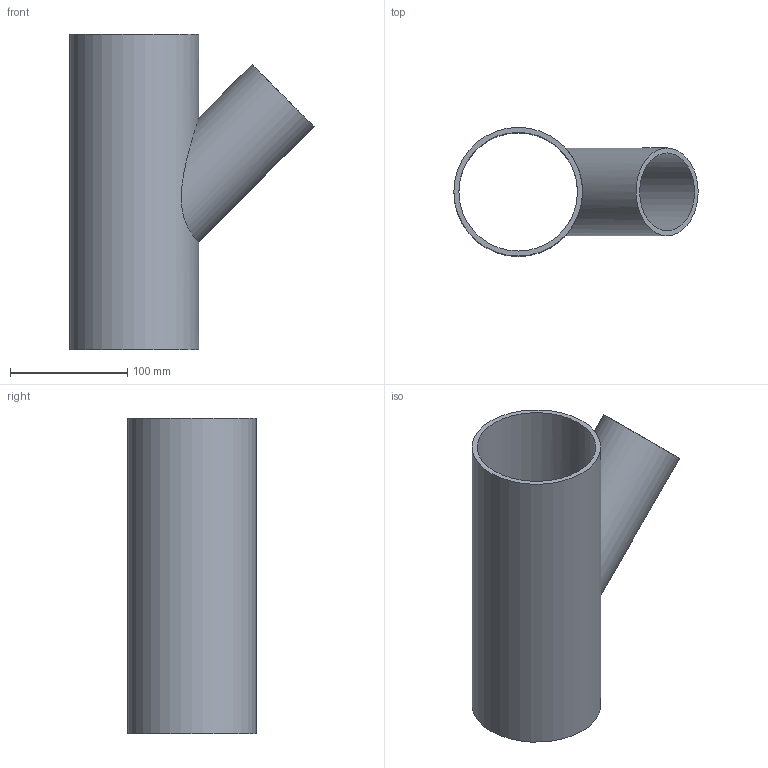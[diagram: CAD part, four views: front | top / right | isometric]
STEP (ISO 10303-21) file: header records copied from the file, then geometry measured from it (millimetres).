
FILE_DESCRIPTION(/* description */ (''),/* implementation_level */ '2;1');
FILE_NAME(/* name */ 'C:\Planerdaten\Export PLA\PRO_101557\stp\367125.stp',/* time_stamp */ '2021-09-30T15:06:41+02:00',/* author */ ('JANAN'),/* organization */ (''),/* preprocessor_version */ 'ST-DEVELOPER v16.13',/* originating_system */ 'Autodesk Inventor 2018',/* authorisation */ '');
FILE_SCHEMA (('AUTOMOTIVE_DESIGN { 1 0 10303 214 3 1 1 }'));
Length unit declared in the file: millimetre
Products named in the file (1): tmpEDF9.tmp
Bounding box: 208.8 x 110 x 270 mm (x, y, z)
Volume: 469328.4 mm3; surface area: 222028.4 mm2
Topology: 1 solids, 1 shells, 7 faces, 17 edges, 12 vertices
Faces by surface type: cylinder 4, plane 3
Full cylindrical faces by diameter (mm): 66.4 x1, 75 x1, 101.4 x1, 110 x1
Entity records: 328 total; most frequent: CARTESIAN_POINT 150, DIRECTION 28, EDGE_LOOP 16, ORIENTED_EDGE 16, AXIS2_PLACEMENT_3D 14, FACE_BOUND 9, VERTEX_POINT 8, EDGE_CURVE 8
